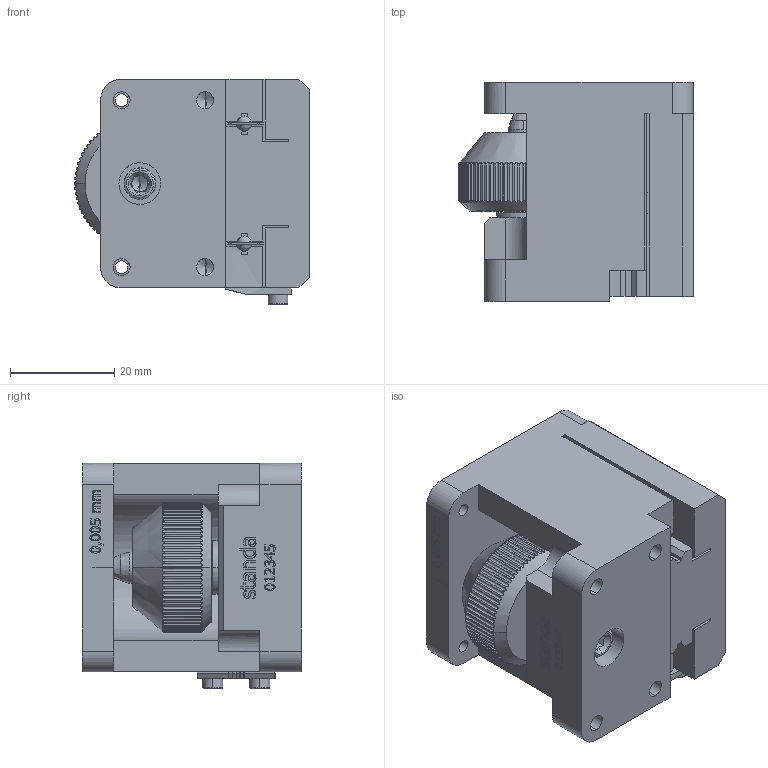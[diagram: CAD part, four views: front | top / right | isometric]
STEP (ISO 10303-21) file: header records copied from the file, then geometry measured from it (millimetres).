
FILE_DESCRIPTION (( 'STEP AP203' ), '1' );
FILE_NAME ('7VT40-13.STEP', '2010-01-27T09:23:40', ( 'Darius' ), ( '' ), 'SwSTEP 2.0', 'SolidWorks 2003240', '' );
FILE_SCHEMA (( 'CONFIG_CONTROL_DESIGN' ));
Products named in the file (1): 7VT40-13
Bounding box: 45 x 42 x 43.2 mm (x, y, z)
Volume: 56051.1 mm3; surface area: 19582.1 mm2
Topology: 1 solids, 10 shells, 1252 faces, 3522 edges, 2328 vertices
Faces by surface type: plane 557, cylinder 342, bspline 311, cone 42
Entity records: 53405 total; most frequent: CARTESIAN_POINT 25064, ORIENTED_EDGE 6892, DIRECTION 4051, EDGE_CURVE 3446, VERTEX_POINT 2328, B_SPLINE_CURVE_WITH_KNOTS 1693, EDGE_LOOP 1490, AXIS2_PLACEMENT_3D 1374
